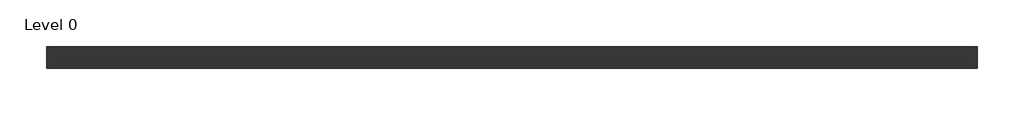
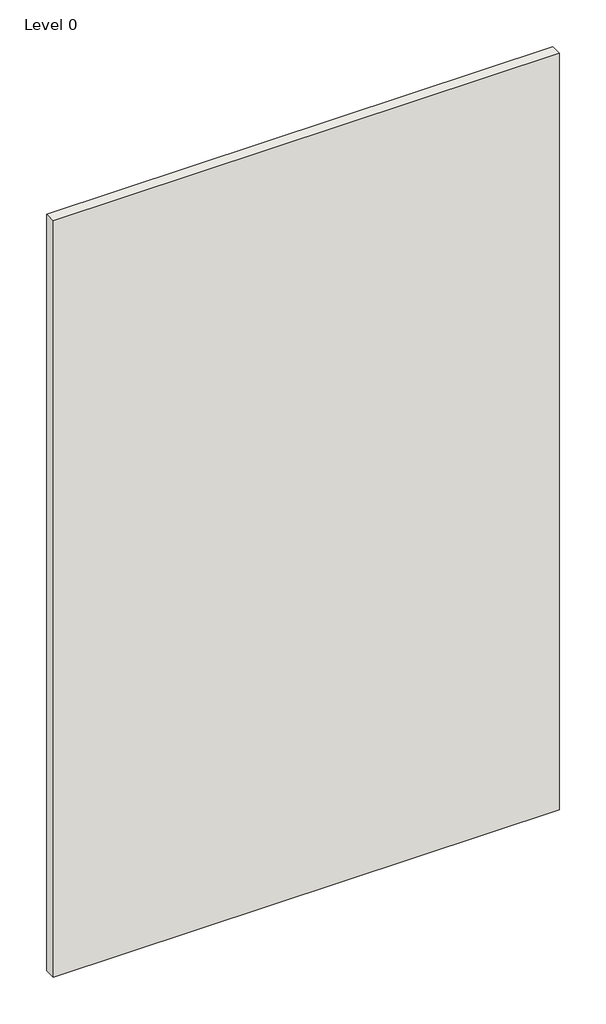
# One storey: 1 wall.
"""IFC4 building model written with IfcOpenShell, lengths in millimetres."""

import ifcopenshell
import ifcopenshell.guid

model = None  # the IFC model being written
_history = None  # IfcOwnerHistory: only IFC2X3 demands one
_inside = {}  # id of a spatial element -> (the spatial element, [elements in it])
_under = {}  # id of a project, library or spatial element -> (it, [spatial elements below it])
_declared = {}  # id of a project -> (the project, [libraries it declares])
_typed = {}  # id of a type object -> (the type object, [elements of that type])
_made_of = {}  # id of a material, layer set ... -> (it, [elements and type objects made of it])


def new_model(schema):
    """Start an empty IFC model of exactly this schema.

    Asked for "IFC4X3", IfcOpenShell would pick the latest addendum, in which some entities
    have other attributes; the version numbers below select the first issue.
    IFC2X3 requires an IfcOwnerHistory on every rooted entity: one is made here for all.
    """
    global model, _history
    if schema == "IFC4X3":
        model = ifcopenshell.file(schema_version=(4, 3, 0, 0))
    else:
        model = ifcopenshell.file(schema=schema)
    _inside.clear()
    _under.clear()
    _declared.clear()
    _typed.clear()
    _made_of.clear()
    _history = None
    if model.schema == "IFC2X3":
        org = make("IfcOrganization", Name="unknown")
        user = make(
            "IfcPersonAndOrganization",
            ThePerson=make("IfcPerson", FamilyName="unknown"),
            TheOrganization=org,
        )
        app = make(
            "IfcApplication",
            ApplicationDeveloper=org,
            Version="unknown",
            ApplicationFullName="unknown",
            ApplicationIdentifier="unknown",
        )
        _history = make(
            "IfcOwnerHistory",
            OwningUser=user,
            OwningApplication=app,
            ChangeAction="ADDED",
            CreationDate=0,
        )
    return model


def make(cls, **values):
    """One entity of the class cls with the attributes given. An attribute that is None is left unset."""
    return model.create_entity(
        cls, **{name: value for name, value in values.items() if value is not None}
    )


def rooted(cls, **values):
    """An entity with a GlobalId (a new one), such as an element, a storey or a relation."""
    return make(cls, GlobalId=ifcopenshell.guid.new(), OwnerHistory=_history, **values)


def si_unit(unit_type, name, prefix=None):
    """IfcSIUnit, for example si_unit("LENGTHUNIT", "METRE", prefix="MILLI")."""
    return make("IfcSIUnit", UnitType=unit_type, Prefix=prefix, Name=name)


def assignment(units):
    """IfcUnitAssignment: the units of a project."""
    return None if units is None else make("IfcUnitAssignment", Units=units)


def point(xyz):
    """IfcCartesianPoint."""
    return None if xyz is None else make("IfcCartesianPoint", Coordinates=xyz)


def direction(xyz):
    """IfcDirection."""
    return None if xyz is None else make("IfcDirection", DirectionRatios=xyz)


def frame(location, z_axis=None, x_axis=None):
    """IfcAxis2Placement3D, a coordinate frame: its origin and axes. An axis left out is left unset."""
    return make(
        "IfcAxis2Placement3D",
        Location=point(location),
        Axis=direction(z_axis),
        RefDirection=direction(x_axis),
    )


def origin():
    """The frame at (0, 0, 0) with its axes left unset."""
    return frame((0.0, 0.0, 0.0))


def origin_with_axes():
    """The frame at (0, 0, 0) with the z axis (0, 0, 1) and the x axis (1, 0, 0) written out."""
    return frame((0.0, 0.0, 0.0), z_axis=(0.0, 0.0, 1.0), x_axis=(1.0, 0.0, 0.0))


def place(relative_to, where):
    """IfcLocalPlacement: puts the frame where relative to a parent placement (None: the world)."""
    return make(
        "IfcLocalPlacement", PlacementRelTo=relative_to, RelativePlacement=where
    )


def context(
    kind, dimensions, precision=None, world=None, true_north=None, identifier=None
):
    """IfcGeometricRepresentationContext, for example the 3D "Model" context."""
    return make(
        "IfcGeometricRepresentationContext",
        ContextIdentifier=identifier,
        ContextType=kind,
        CoordinateSpaceDimension=dimensions,
        Precision=precision,
        WorldCoordinateSystem=world,
        TrueNorth=true_north,
    )


def project(units=None, contexts=None):
    """IfcProject with its units and contexts."""
    return rooted(
        "IfcProject",
        Name="project",
        RepresentationContexts=contexts,
        UnitsInContext=assignment(units),
    )


def spatial(cls, under=None, at=None, **own):
    """A site, building, storey or space (cls), placed at a placement, below another one or the project."""
    s = rooted(cls, ObjectPlacement=at, **own)
    if under is not None:
        _under.setdefault(under.id(), (under, []))[1].append(s)
    return s


def polyline(points):
    """IfcPolyline through the points."""
    return make("IfcPolyline", Points=[point(p) for p in points])


def outline(outer, holes=None, kind="AREA"):
    """IfcArbitraryClosedProfileDef: a profile drawn as a closed curve; with holes, ...WithVoids."""
    if holes is None:
        return make("IfcArbitraryClosedProfileDef", ProfileType=kind, OuterCurve=outer)
    return make(
        "IfcArbitraryProfileDefWithVoids",
        ProfileType=kind,
        OuterCurve=outer,
        InnerCurves=holes,
    )


def extrude(swept, where, along, depth):
    """IfcExtrudedAreaSolid: the profile swept, set in the frame where, extruded along a direction by depth."""
    return make(
        "IfcExtrudedAreaSolid",
        SweptArea=swept,
        Position=where,
        ExtrudedDirection=direction(along),
        Depth=depth,
    )


def shape(context_of_items, identifier, shape_type, items):
    """IfcShapeRepresentation: the items that make up one representation, for example the "Body"."""
    return make(
        "IfcShapeRepresentation",
        ContextOfItems=context_of_items,
        RepresentationIdentifier=identifier,
        RepresentationType=shape_type,
        Items=items,
    )


def made_of(thing, what):
    """Note that an element or type object is made of a material, layer set ...; save() writes the relation."""
    if what is not None:
        _made_of.setdefault(what.id(), (what, []))[1].append(thing)
    return thing


def element(
    cls,
    number,
    at=None,
    inside=None,
    cuts=None,
    type_object=None,
    material=None,
    context=None,
    identifier="Body",
    shape_type=None,
    held_by="IfcProductDefinitionShape",
    body=None,
    shapes=None,
    **own,
):
    """One element of the class cls, such as IfcWall. Its Tag is "e" and its number.

    at: its placement. inside: the storey or other place that contains it. cuts: it is an
    opening in that element (IfcRelVoidsElement). A single representation is given by context,
    identifier, shape_type and body (its items); several are given by shapes. held_by: the class
    of the entity that holds the representations. save() writes the other relations.
    """
    e = rooted(cls, Tag="e%d" % number, ObjectPlacement=at, **own)
    if body is not None:
        shapes = [shape(context, identifier, shape_type, body)]
    if shapes is not None:
        e.Representation = make(held_by, Representations=shapes)
    if inside is not None:
        _inside.setdefault(inside.id(), (inside, []))[1].append(e)
    if cuts is not None:
        rooted(
            "IfcRelVoidsElement", RelatingBuildingElement=cuts, RelatedOpeningElement=e
        )
    if type_object is not None:
        _typed.setdefault(type_object.id(), (type_object, []))[1].append(e)
    return made_of(e, material)


def aggregate(whole, parts):
    """IfcRelAggregates: a whole, such as a stair, and the parts it consists of."""
    return rooted("IfcRelAggregates", RelatingObject=whole, RelatedObjects=parts)


def save(model, path):
    """Write the relations noted so far, then the file.

    IfcRelAggregates (storeys below a building ...), IfcRelContainedInSpatialStructure (elements
    in a storey), IfcRelDefinesByType, IfcRelAssociatesMaterial and IfcRelDeclares: one each for
    every whole, place, type object, material and project.
    """
    for whole, parts in _under.values():
        aggregate(whole, parts)
    for where, things in _inside.values():
        rooted(
            "IfcRelContainedInSpatialStructure",
            RelatedElements=things,
            RelatingStructure=where,
        )
    for kind, things in _typed.values():
        rooted("IfcRelDefinesByType", RelatedObjects=things, RelatingType=kind)
    for what, things in _made_of.values():
        rooted("IfcRelAssociatesMaterial", RelatedObjects=things, RelatingMaterial=what)
    for by, libraries in _declared.values():
        rooted("IfcRelDeclares", RelatingContext=by, RelatedDefinitions=libraries)
    model.write(path)


model = new_model("IFC4")

# Units and contexts
model_context = context("Model", 3, world=origin())
ifc_project = project(units=[si_unit("LENGTHUNIT", "METRE", prefix="MILLI")], contexts=[model_context])

# Site, building, storey
site = spatial("IfcSite", under=ifc_project)
building = spatial("IfcBuilding", under=site)
storey = spatial("IfcBuildingStorey", under=building, Name="Level 0", Elevation=0.0)

# Wall
placement = place(None, origin())
element("IfcWall", 1, ObjectType="B216025(b) - GypLyner IWL", at=placement, inside=storey, context=model_context, shape_type="SweptSolid", body=[
    extrude(outline(polyline([(1155.997948, 519.0169953), (-1944.002052, 519.0169953), (-1944.002052, 591.5169953), (1155.997948, 591.5169953), (1155.997948, 519.0169953)])), origin_with_axes(), (0.0, 0.0, 1.0), 4900.0),
])

save(model, "model.ifc")
